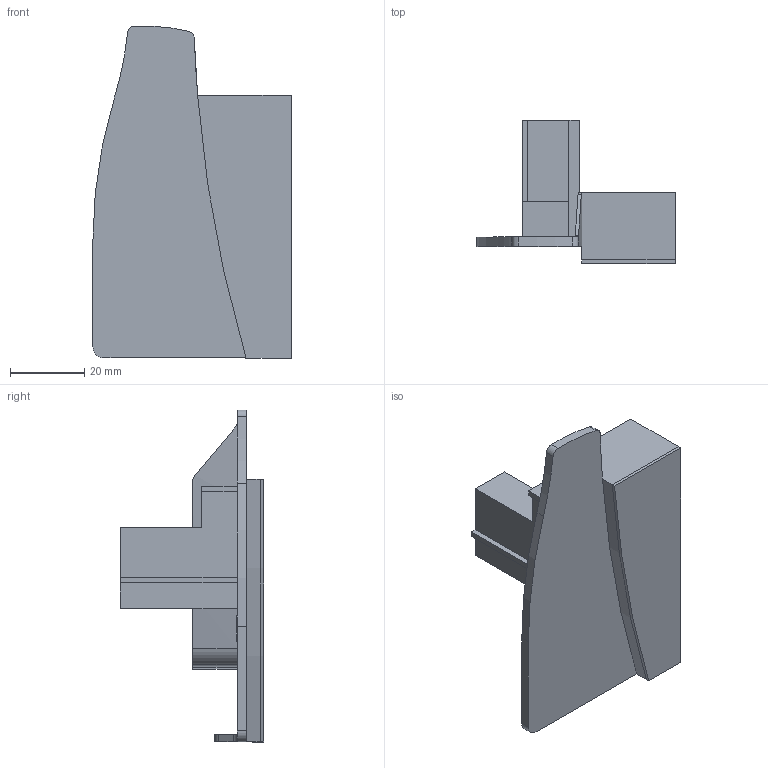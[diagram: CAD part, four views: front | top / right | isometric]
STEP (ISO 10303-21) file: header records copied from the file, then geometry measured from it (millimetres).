
FILE_DESCRIPTION (( 'STEP AP214' ), '1' );
FILE_NAME ('Blendenhalter AL 6800 Links.step', '2010-09-16T12:23:06', ( 'grass' ), ( '' ), 'SwSTEP 2.0', 'SolidWorks 2010', '' );
FILE_SCHEMA (( 'AUTOMOTIVE_DESIGN' ));
Length unit declared in the file: millimetre
Products named in the file (1): Blendenhalter AL 6800 Links
Bounding box: 53.5 x 38.6 x 89.56 mm (x, y, z)
Volume: 39660.8 mm3; surface area: 14418.3 mm2
Topology: 1 solids, 1 shells, 61 faces, 166 edges, 109 vertices
Faces by surface type: plane 44, cylinder 17
Entity records: 1956 total; most frequent: CARTESIAN_POINT 369, ORIENTED_EDGE 332, DIRECTION 311, EDGE_CURVE 166, LINE 129, VECTOR 129, VERTEX_POINT 109, AXIS2_PLACEMENT_3D 91
